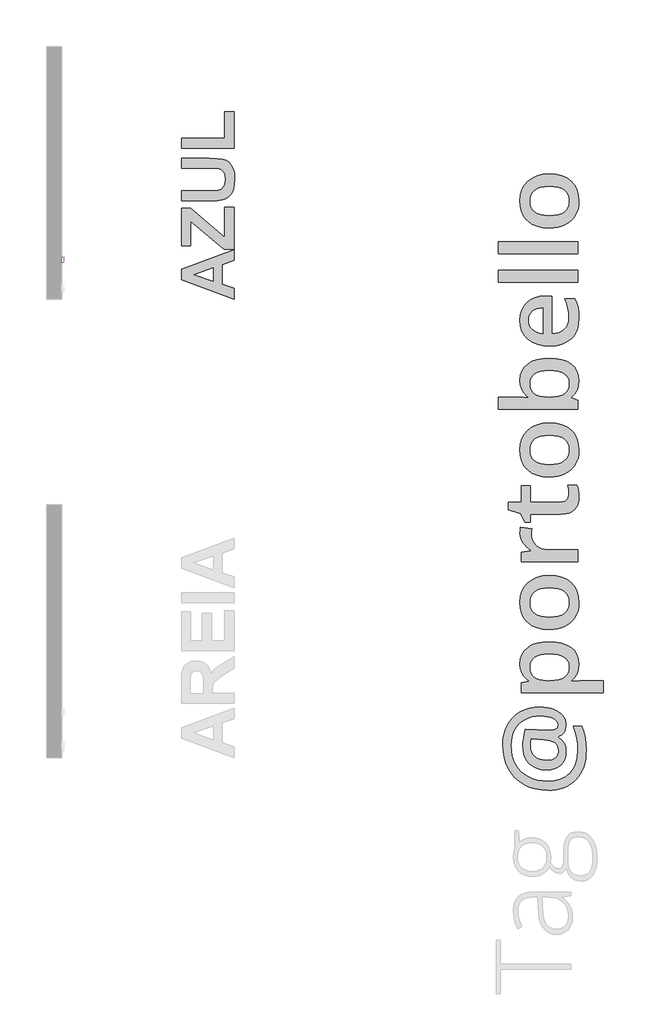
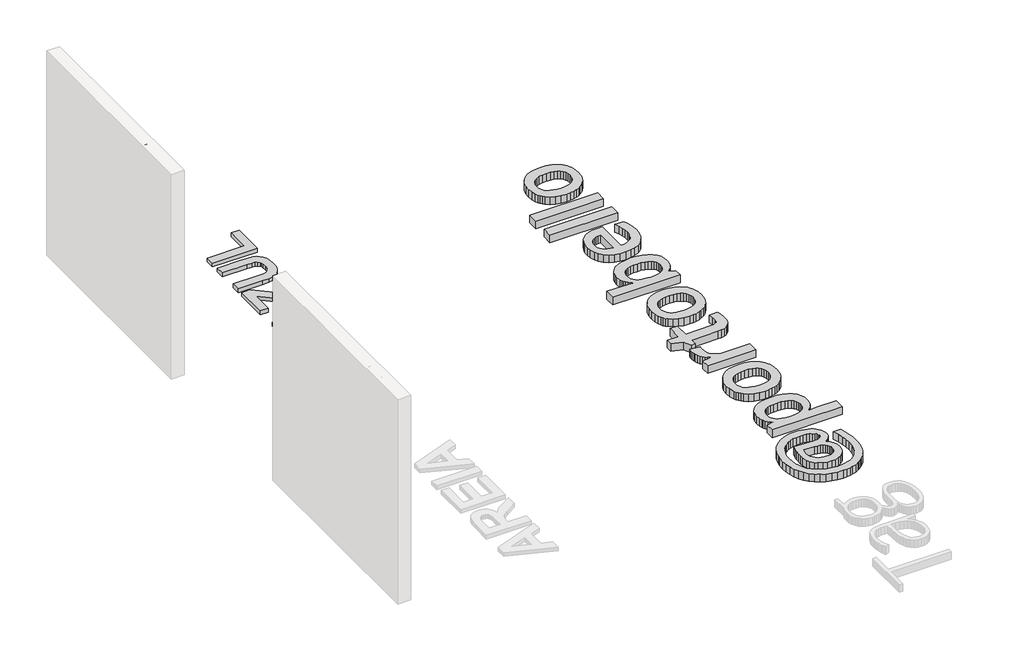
# One storey, part 2 of 6: 3 proxies.
"""IFC4 building model written with IfcOpenShell, lengths in millimetres."""

import ifcopenshell
import ifcopenshell.guid

model = None  # the IFC model being written
_history = None  # IfcOwnerHistory: only IFC2X3 demands one
_inside = {}  # id of a spatial element -> (the spatial element, [elements in it])
_under = {}  # id of a project, library or spatial element -> (it, [spatial elements below it])
_declared = {}  # id of a project -> (the project, [libraries it declares])
_typed = {}  # id of a type object -> (the type object, [elements of that type])
_made_of = {}  # id of a material, layer set ... -> (it, [elements and type objects made of it])


def new_model(schema):
    """Start an empty IFC model of exactly this schema.

    Asked for "IFC4X3", IfcOpenShell would pick the latest addendum, in which some entities
    have other attributes; the version numbers below select the first issue.
    IFC2X3 requires an IfcOwnerHistory on every rooted entity: one is made here for all.
    """
    global model, _history
    if schema == "IFC4X3":
        model = ifcopenshell.file(schema_version=(4, 3, 0, 0))
    else:
        model = ifcopenshell.file(schema=schema)
    _inside.clear()
    _under.clear()
    _declared.clear()
    _typed.clear()
    _made_of.clear()
    _history = None
    if model.schema == "IFC2X3":
        org = make("IfcOrganization", Name="unknown")
        user = make(
            "IfcPersonAndOrganization",
            ThePerson=make("IfcPerson", FamilyName="unknown"),
            TheOrganization=org,
        )
        app = make(
            "IfcApplication",
            ApplicationDeveloper=org,
            Version="unknown",
            ApplicationFullName="unknown",
            ApplicationIdentifier="unknown",
        )
        _history = make(
            "IfcOwnerHistory",
            OwningUser=user,
            OwningApplication=app,
            ChangeAction="ADDED",
            CreationDate=0,
        )
    return model


def make(cls, **values):
    """One entity of the class cls with the attributes given. An attribute that is None is left unset."""
    return model.create_entity(
        cls, **{name: value for name, value in values.items() if value is not None}
    )


def rooted(cls, **values):
    """An entity with a GlobalId (a new one), such as an element, a storey or a relation."""
    return make(cls, GlobalId=ifcopenshell.guid.new(), OwnerHistory=_history, **values)


def si_unit(unit_type, name, prefix=None):
    """IfcSIUnit, for example si_unit("LENGTHUNIT", "METRE", prefix="MILLI")."""
    return make("IfcSIUnit", UnitType=unit_type, Prefix=prefix, Name=name)


def assignment(units):
    """IfcUnitAssignment: the units of a project."""
    return None if units is None else make("IfcUnitAssignment", Units=units)


def point(xyz):
    """IfcCartesianPoint."""
    return None if xyz is None else make("IfcCartesianPoint", Coordinates=xyz)


def direction(xyz):
    """IfcDirection."""
    return None if xyz is None else make("IfcDirection", DirectionRatios=xyz)


def frame(location, z_axis=None, x_axis=None):
    """IfcAxis2Placement3D, a coordinate frame: its origin and axes. An axis left out is left unset."""
    return make(
        "IfcAxis2Placement3D",
        Location=point(location),
        Axis=direction(z_axis),
        RefDirection=direction(x_axis),
    )


def origin():
    """The frame at (0, 0, 0) with its axes left unset."""
    return frame((0.0, 0.0, 0.0))


def origin_with_axes():
    """The frame at (0, 0, 0) with the z axis (0, 0, 1) and the x axis (1, 0, 0) written out."""
    return frame((0.0, 0.0, 0.0), z_axis=(0.0, 0.0, 1.0), x_axis=(1.0, 0.0, 0.0))


def place(relative_to, where):
    """IfcLocalPlacement: puts the frame where relative to a parent placement (None: the world)."""
    return make(
        "IfcLocalPlacement", PlacementRelTo=relative_to, RelativePlacement=where
    )


def context(
    kind, dimensions, precision=None, world=None, true_north=None, identifier=None
):
    """IfcGeometricRepresentationContext, for example the 3D "Model" context."""
    return make(
        "IfcGeometricRepresentationContext",
        ContextIdentifier=identifier,
        ContextType=kind,
        CoordinateSpaceDimension=dimensions,
        Precision=precision,
        WorldCoordinateSystem=world,
        TrueNorth=true_north,
    )


def project(units=None, contexts=None):
    """IfcProject with its units and contexts."""
    return rooted(
        "IfcProject",
        Name="project",
        RepresentationContexts=contexts,
        UnitsInContext=assignment(units),
    )


def spatial(cls, under=None, at=None, **own):
    """A site, building, storey or space (cls), placed at a placement, below another one or the project."""
    s = rooted(cls, ObjectPlacement=at, **own)
    if under is not None:
        _under.setdefault(under.id(), (under, []))[1].append(s)
    return s


def polyline(points):
    """IfcPolyline through the points."""
    return make("IfcPolyline", Points=[point(p) for p in points])


def outline(outer, holes=None, kind="AREA"):
    """IfcArbitraryClosedProfileDef: a profile drawn as a closed curve; with holes, ...WithVoids."""
    if holes is None:
        return make("IfcArbitraryClosedProfileDef", ProfileType=kind, OuterCurve=outer)
    return make(
        "IfcArbitraryProfileDefWithVoids",
        ProfileType=kind,
        OuterCurve=outer,
        InnerCurves=holes,
    )


def extrude(swept, where, along, depth):
    """IfcExtrudedAreaSolid: the profile swept, set in the frame where, extruded along a direction by depth."""
    return make(
        "IfcExtrudedAreaSolid",
        SweptArea=swept,
        Position=where,
        ExtrudedDirection=direction(along),
        Depth=depth,
    )


def shape(context_of_items, identifier, shape_type, items):
    """IfcShapeRepresentation: the items that make up one representation, for example the "Body"."""
    return make(
        "IfcShapeRepresentation",
        ContextOfItems=context_of_items,
        RepresentationIdentifier=identifier,
        RepresentationType=shape_type,
        Items=items,
    )


def made_of(thing, what):
    """Note that an element or type object is made of a material, layer set ...; save() writes the relation."""
    if what is not None:
        _made_of.setdefault(what.id(), (what, []))[1].append(thing)
    return thing


def element(
    cls,
    number,
    at=None,
    inside=None,
    cuts=None,
    type_object=None,
    material=None,
    context=None,
    identifier="Body",
    shape_type=None,
    held_by="IfcProductDefinitionShape",
    body=None,
    shapes=None,
    **own,
):
    """One element of the class cls, such as IfcWall. Its Tag is "e" and its number.

    at: its placement. inside: the storey or other place that contains it. cuts: it is an
    opening in that element (IfcRelVoidsElement). A single representation is given by context,
    identifier, shape_type and body (its items); several are given by shapes. held_by: the class
    of the entity that holds the representations. save() writes the other relations.
    """
    e = rooted(cls, Tag="e%d" % number, ObjectPlacement=at, **own)
    if body is not None:
        shapes = [shape(context, identifier, shape_type, body)]
    if shapes is not None:
        e.Representation = make(held_by, Representations=shapes)
    if inside is not None:
        _inside.setdefault(inside.id(), (inside, []))[1].append(e)
    if cuts is not None:
        rooted(
            "IfcRelVoidsElement", RelatingBuildingElement=cuts, RelatedOpeningElement=e
        )
    if type_object is not None:
        _typed.setdefault(type_object.id(), (type_object, []))[1].append(e)
    return made_of(e, material)


def aggregate(whole, parts):
    """IfcRelAggregates: a whole, such as a stair, and the parts it consists of."""
    return rooted("IfcRelAggregates", RelatingObject=whole, RelatedObjects=parts)


def save(model, path):
    """Write the relations noted so far, then the file.

    IfcRelAggregates (storeys below a building ...), IfcRelContainedInSpatialStructure (elements
    in a storey), IfcRelDefinesByType, IfcRelAssociatesMaterial and IfcRelDeclares: one each for
    every whole, place, type object, material and project.
    """
    for whole, parts in _under.values():
        aggregate(whole, parts)
    for where, things in _inside.values():
        rooted(
            "IfcRelContainedInSpatialStructure",
            RelatedElements=things,
            RelatingStructure=where,
        )
    for kind, things in _typed.values():
        rooted("IfcRelDefinesByType", RelatedObjects=things, RelatingType=kind)
    for what, things in _made_of.values():
        rooted("IfcRelAssociatesMaterial", RelatedObjects=things, RelatingMaterial=what)
    for by, libraries in _declared.values():
        rooted("IfcRelDeclares", RelatingContext=by, RelatedDefinitions=libraries)
    model.write(path)


model = new_model("IFC4")

# Units and contexts
model_context = context("Model", 3, world=origin())
ifc_project = project(units=[si_unit("LENGTHUNIT", "METRE", prefix="MILLI")], contexts=[model_context])

# Site, building, storey
site = spatial("IfcSite", under=ifc_project)
building = spatial("IfcBuilding", under=site)
storey = spatial("IfcBuildingStorey", under=building, Name="PORTOBELLO - SHOWROOM", Elevation=0.0)

# Proxies
placement = place(None, origin())
element("IfcBuildingElementProxy", 1, Name="10mm Arial Narrow", ObjectType="10mm Arial Narrow", at=placement, inside=storey, context=model_context, shape_type="SweptSolid", body=[
    extrude(outline(polyline([(-4010.6286257, 2518.4745677), (-4010.6286257, 2619.1931714), (-3979.3317411, 2619.1931714), (-3963.0360395, 2617.3148507), (-3951.5630534, 2607.8344075), (-3947.273375, 2590.8152987), (-3949.0596834, 2578.7394731), (-3954.4186086, 2569.1130794), (-3964.1623974, 2562.811821), (-3979.1032966, 2560.7114015), (-4000.8816641, 2560.7114015), (-4000.8816641, 2518.4745677), (-4010.6286257, 2518.4745677)]), holes=[polyline([(-4000.8816641, 2572.0828568), (-3977.9103091, 2572.0828568), (-3962.0461137, 2576.613671), (-3957.0203366, 2590.2822617), (-3959.4951511, 2600.4480381), (-3965.47278, 2606.247988), (-3978.1387536, 2607.8217162), (-4000.8816641, 2607.8217162), (-4000.8816641, 2572.0828568)])]), frame((-21726.2609603, 0.0, 0.0), z_axis=(1.0, 0.0, 0.0), x_axis=(0.0, 1.0, 0.0)), (0.0, 0.0, 1.0), 20.0),
    extrude(outline(polyline([(-3939.1509069, 2555.0256739), (-3937.1964381, 2571.6164494), (-3931.3330315, 2583.5685342), (-3922.4744647, 2590.7930888), (-3911.5345156, 2593.2012737), (-3900.72148, 2590.7930888), (-3891.8375306, 2583.5685342), (-3885.8979758, 2571.8068198), (-3883.9181242, 2555.7871552), (-3885.8630746, 2538.6252687), (-3891.6979257, 2526.4828135), (-3900.5469739, 2519.2582589), (-3911.5345156, 2516.8500741), (-3922.3951438, 2519.2646046), (-3931.2695747, 2526.5081962), (-3937.1805739, 2538.4666267), (-3939.1509069, 2555.0256739)]), holes=[polyline([(-3929.4039453, 2555.0510566), (-3928.0999084, 2542.4993052), (-3924.1877978, 2533.6280471), (-3918.3466011, 2528.3547886), (-3911.2553058, 2526.5970357), (-3904.5352326, 2528.3706528), (-3898.8431593, 2533.6915039), (-3894.9596042, 2542.5786262), (-3893.6650859, 2555.0510566), (-3894.9691228, 2567.5647339), (-3898.8812333, 2576.4233006), (-3904.7224301, 2581.6965592), (-3911.8137254, 2583.454312), (-3918.5813912, 2581.6870407), (-3924.263946, 2576.3852265), (-3928.1189455, 2567.5171413), (-3929.4039453, 2555.0510566)])]), frame((-21726.2609603, 0.0, 0.0), z_axis=(1.0, 0.0, 0.0), x_axis=(0.0, 1.0, 0.0)), (0.0, 0.0, 1.0), 20.0),
    extrude(outline(polyline([(-3812.4404054, 2526.5970357), (-3810.8159118, 2516.8500741), (-3818.1768985, 2516.8500741), (-3826.4516628, 2518.9695306), (-3830.766724, 2524.7694804), (-3831.9343288, 2539.4153056), (-3831.9343288, 2581.8298184), (-3840.0567968, 2581.8298184), (-3840.0567968, 2585.0788056), (-3841.6812904, 2580.2053248), (-3849.2453388, 2581.8298184), (-3855.3244985, 2579.5073002), (-3859.1953621, 2573.0220171), (-3861.1752137, 2557.6147106), (-3861.1752137, 2518.4745677), (-3870.9221754, 2518.4745677), (-3870.9221754, 2591.5767801), (-3861.1752137, 2591.5767801), (-3861.1752137, 2581.8805838), (-3854.9310664, 2590.967595), (-3848.5346228, 2593.2012737), (-3840.0567968, 2591.5767801), (-3831.9343288, 2591.5767801), (-3831.9343288, 2607.8217162), (-3822.1873671, 2615.9441842), (-3822.1873671, 2591.5767801), (-3812.4404054, 2591.5767801), (-3812.4404054, 2581.8298184), (-3822.1873671, 2581.8298184), (-3822.1873671, 2537.1816269), (-3821.3243549, 2529.1860724), (-3816.7047012, 2526.5970357), (-3812.4404054, 2526.5970357)])), frame((-21726.2609603, 0.0, 0.0), z_axis=(1.0, 0.0, 0.0), x_axis=(0.0, 1.0, 0.0)), (0.0, 0.0, 1.0), 20.0),
    extrude(outline(polyline([(-3805.942431, 2555.0256739), (-3803.9879621, 2571.6164494), (-3798.1245555, 2583.5685342), (-3789.2659888, 2590.7930888), (-3778.3260397, 2593.2012737), (-3767.5130041, 2590.7930888), (-3758.6290547, 2583.5685342), (-3752.6894999, 2571.8068198), (-3750.7096483, 2555.7871552), (-3752.6545987, 2538.6252687), (-3758.4894497, 2526.4828135), (-3767.3384979, 2519.2582589), (-3778.3260397, 2516.8500741), (-3789.1866678, 2519.2646046), (-3798.0610987, 2526.5081962), (-3803.9720979, 2538.4666267), (-3805.942431, 2555.0256739)]), holes=[polyline([(-3796.1954694, 2555.0510566), (-3794.8914325, 2542.4993052), (-3790.9793219, 2533.6280471), (-3785.1381252, 2528.3547886), (-3778.0468298, 2526.5970357), (-3771.3267567, 2528.3706528), (-3765.6346833, 2533.6915039), (-3761.7511283, 2542.5786262), (-3760.45661, 2555.0510566), (-3761.7606468, 2567.5647339), (-3765.6727574, 2576.4233006), (-3771.5139542, 2581.6965592), (-3778.6052495, 2583.454312), (-3785.3729153, 2581.6870407), (-3791.05547, 2576.3852265), (-3794.9104695, 2567.5171413), (-3796.1954694, 2555.0510566)])]), frame((-21726.2609603, 0.0, 0.0), z_axis=(1.0, 0.0, 0.0), x_axis=(0.0, 1.0, 0.0)), (0.0, 0.0, 1.0), 20.0),
    extrude(outline(polyline([(-3727.9667378, 2518.4745677), (-3737.7136994, 2518.4745677), (-3737.7136994, 2619.1931714), (-3727.9667378, 2619.1931714), (-3727.9667378, 2583.7842873), (-3720.5676771, 2590.8660641), (-3711.3664437, 2593.2012737), (-3698.4847171, 2589.0004347), (-3689.2073356, 2576.2710043), (-3685.729904, 2555.5840935), (-3687.662163, 2539.1297501), (-3693.45894, 2526.927011), (-3701.8320623, 2519.3693083), (-3711.4933573, 2516.8500741), (-3720.8341955, 2519.4644935), (-3727.9667378, 2527.2316035), (-3727.9667378, 2518.4745677)]), holes=[polyline([(-3727.9667378, 2555.5840935), (-3725.8853553, 2538.3365403), (-3719.996566, 2529.6048872), (-3711.5441227, 2526.5970357), (-3705.6013951, 2528.3865169), (-3700.3630378, 2533.7549607), (-3695.4768656, 2555.1779701), (-3700.1853588, 2576.613671), (-3705.4300618, 2581.7441518), (-3711.7471844, 2583.454312), (-3717.7248132, 2581.6648308), (-3723.0171088, 2576.2963871), (-3727.9667378, 2555.5840935)])]), frame((-21726.2609603, 0.0, 0.0), z_axis=(1.0, 0.0, 0.0), x_axis=(0.0, 1.0, 0.0)), (0.0, 0.0, 1.0), 20.0),
    extrude(outline(polyline([(-3633.7461085, 2541.2174782), (-3623.9991468, 2539.5929846), (-3627.6986772, 2529.706418), (-3633.5176641, 2522.5865671), (-3641.2213173, 2518.2841973), (-3650.5748469, 2516.8500741), (-3662.1684009, 2519.2646046), (-3671.3125232, 2526.5081962), (-3677.2520779, 2538.3143304), (-3679.2319295, 2554.4164888), (-3677.2425594, 2571.0834124), (-3671.2744491, 2583.2639417), (-3662.2604133, 2590.7169407), (-3651.1332666, 2593.2012737), (-3640.4503174, 2590.8026073), (-3631.7028001, 2583.6066083), (-3625.867949, 2571.8671037), (-3623.9229987, 2555.8379207), (-3623.9991468, 2552.5889335), (-3669.4849679, 2552.5889335), (-3663.4819563, 2533.1457756), (-3657.5519201, 2528.2342207), (-3650.4479334, 2526.5970357), (-3640.2694656, 2530.2521463), (-3633.7461085, 2541.2174782)]), holes=[polyline([(-3668.8250173, 2562.3358951), (-3633.7461085, 2562.3358951), (-3638.0104042, 2576.6009796), (-3643.8357367, 2581.7409789), (-3651.0571185, 2583.454312), (-3663.2662033, 2577.7432017), (-3668.8250173, 2562.3358951)])]), frame((-21726.2609603, 0.0, 0.0), z_axis=(1.0, 0.0, 0.0), x_axis=(0.0, 1.0, 0.0)), (0.0, 0.0, 1.0), 20.0),
    extrude(outline(polyline([(-21706.2609603, -3601.2562363), (-21706.2609603, -3611.0031979), (-21726.2609603, -3611.0031979), (-21726.2609603, -3601.2562363), (-21706.2609603, -3601.2562363)])), frame((0.0, 0.0, 2518.4745677), z_axis=(0.0, 0.0, 1.0), x_axis=(1.0, 0.0, 0.0)), (0.0, 0.0, 1.0), 100.7186038),
    extrude(outline(polyline([(-21706.2609603, -3575.2643385), (-21706.2609603, -3585.0113002), (-21726.2609603, -3585.0113002), (-21726.2609603, -3575.2643385), (-21706.2609603, -3575.2643385)])), frame((0.0, 0.0, 2518.4745677), z_axis=(0.0, 0.0, 1.0), x_axis=(1.0, 0.0, 0.0)), (0.0, 0.0, 1.0), 100.7186038),
    extrude(outline(polyline([(-3563.8928833, 2555.0256739), (-3561.9384144, 2571.6164494), (-3556.0750078, 2583.5685342), (-3547.2164411, 2590.7930888), (-3536.2764919, 2593.2012737), (-3525.4634563, 2590.7930888), (-3516.5795069, 2583.5685342), (-3510.6399522, 2571.8068198), (-3508.6601006, 2555.7871552), (-3510.6050509, 2538.6252687), (-3516.439902, 2526.4828135), (-3525.2889502, 2519.2582589), (-3536.2764919, 2516.8500741), (-3547.1371201, 2519.2646046), (-3556.011551, 2526.5081962), (-3561.9225502, 2538.4666267), (-3563.8928833, 2555.0256739)]), holes=[polyline([(-3554.1459216, 2555.0510566), (-3552.8418848, 2542.4993052), (-3548.9297742, 2533.6280471), (-3543.0885774, 2528.3547886), (-3535.9972821, 2526.5970357), (-3529.2772089, 2528.3706528), (-3523.5851356, 2533.6915039), (-3519.7015806, 2542.5786262), (-3518.4070622, 2555.0510566), (-3519.7110991, 2567.5647339), (-3523.6232097, 2576.4233006), (-3529.4644064, 2581.6965592), (-3536.5557018, 2583.454312), (-3543.3233675, 2581.6870407), (-3549.0059223, 2576.3852265), (-3552.8609218, 2567.5171413), (-3554.1459216, 2555.0510566)])]), frame((-21726.2609603, 0.0, 0.0), z_axis=(1.0, 0.0, 0.0), x_axis=(0.0, 1.0, 0.0)), (0.0, 0.0, 1.0), 20.0),
])
element("IfcBuildingElementProxy", 2, Name="550mm Arial", ObjectType="550mm Arial", at=placement, inside=storey, context=model_context, shape_type="SweptSolid", body=[
    extrude(outline(polyline([(-19883.4014648, -3872.058402), (-19883.4014648, -3984.3704393), (-20008.0998359, -4028.3488827), (-20008.0998359, -4240.3082791), (-19883.4014648, -4283.7300334), (-19883.4014648, -4397.5729659), (-20444.5441347, -4192.7113562), (-20444.5441347, -4078.8684237), (-19883.4014648, -3872.058402)]), holes=[polyline([(-20106.0771275, -4062.5852658), (-20310.9387371, -4134.8156839), (-20106.0771275, -4206.071896), (-20106.0771275, -4062.5852658)])]), origin_with_axes(), (0.0, 0.0, 1.0), 50.0),
    extrude(outline(polyline([(-19883.4014648, -3863.1513755), (-19990.2857829, -3863.1513755), (-20346.5668432, -3562.4000585), (-20346.5668432, -3827.5232694), (-20444.5441347, -3827.5232694), (-20444.5441347, -3426.7070766), (-20346.5668432, -3426.7070766), (-19981.3787564, -3734.9736971), (-19981.3787564, -3417.8000501), (-19883.4014648, -3417.8000501), (-19883.4014648, -3863.1513755)])), origin_with_axes(), (0.0, 0.0, 1.0), 50.0),
    extrude(outline(polyline([(-20444.5441347, -3346.543838), (-20444.5441347, -3239.6595199), (-20141.8444058, -3239.6595199), (-20082.4178383, -3238.5113485), (-20048.3206274, -3235.0668344), (-20017.4417758, -3221.6715015), (-19993.2779871, -3197.351144), (-19984.1752495, -3181.094081), (-19977.6732942, -3162.1057618), (-19972.4717298, -3115.9353548), (-19977.377553, -3069.8171375), (-19983.509832, -3051.6247098), (-19992.0950226, -3036.6767362), (-20013.9624686, -3015.3311863), (-20040.3182208, -3004.5975235), (-20078.3644454, -3000.526734), (-20135.3033082, -2999.1698042), (-20444.5441347, -2999.1698042), (-20444.5441347, -2892.2854861), (-20150.1947431, -2892.2854861), (-20064.0123031, -2894.616622), (-20007.5431467, -2901.6100295), (-19969.1489914, -2914.86619), (-19937.1915545, -2935.9855849), (-19911.3924914, -2965.2639553), (-19891.4734575, -3002.9970422), (-19878.7391931, -3051.3768092), (-19874.4944383, -3112.5952199), (-19879.1219169, -3184.3037419), (-19884.9062651, -3212.7731733), (-19893.0043527, -3236.319385), (-19914.297713, -3274.0698684), (-19941.1579648, -3302.9829115), (-19971.5323169, -3323.3020657), (-20003.367978, -3335.2708826), (-20063.003304, -3343.7255992), (-20145.6020576, -3346.543838), (-20444.5441347, -3346.543838)])), origin_with_axes(), (0.0, 0.0, 1.0), 50.0),
    extrude(outline(polyline([(-19883.4014648, -2785.401168), (-20444.5441347, -2785.401168), (-20444.5441347, -2678.5168499), (-19981.3787564, -2678.5168499), (-19981.3787564, -2393.4920017), (-19883.4014648, -2393.4920017), (-19883.4014648, -2785.401168)])), origin_with_axes(), (0.0, 0.0, 1.0), 50.0),
])
element("IfcBuildingElementProxy", 3, Name="80mm OpenSans Bold", ObjectType="80mm OpenSans Bold", at=placement, inside=storey, context=model_context, shape_type="SweptSolid", body=[
    extrude(outline(polyline([(-16609.0154687, -8756.8805327), (-16570.9098541, -8758.4278926), (-16534.4717825, -8763.0699722), (-16499.7012542, -8770.8067716), (-16466.598269, -8781.6382907), (-16436.1167818, -8795.2790942), (-16409.2107476, -8811.4437468), (-16385.8801662, -8830.1322485), (-16366.1250378, -8851.3445994), (-16350.403561, -8874.6902037), (-16339.1739348, -8899.7784656), (-16332.4361591, -8926.6093853), (-16330.1902338, -8955.1829627), (-16335.8989401, -8995.8049151), (-16343.034823, -9013.952592), (-16353.0250591, -9030.6580694), (-16365.4490068, -9045.3354538), (-16379.8860246, -9057.3988517), (-16396.3361125, -9066.8482629), (-16414.7992706, -9073.6836876), (-16414.7992706, -9080.4139519), (-16377.782817, -9110.5799579), (-16351.342493, -9147.2358616), (-16335.4782986, -9189.6004717), (-16330.1902338, -9236.8925967), (-16333.7431523, -9279.5576649), (-16344.401908, -9317.4154016), (-16362.1665006, -9350.4658066), (-16387.0369304, -9378.7088799), (-16417.9766164, -9401.3183615), (-16453.9489776, -9417.4679913), (-16494.9540142, -9427.1577691), (-16540.9917261, -9430.387695), (-16594.135275, -9426.1061653), (-16642.0358279, -9413.2615761), (-16684.6933847, -9391.8539274), (-16722.1079455, -9361.8832192), (-16752.5518754, -9324.7015136), (-16774.2975396, -9281.6608725), (-16787.3449381, -9232.761296), (-16791.6940709, -9178.0027841), (-16789.8612757, -9133.6851956), (-16784.3628902, -9084.8607336), (-16775.6195558, -9036.6371882), (-16764.051914, -8994.122349), (-16512.868836, -9006.3810447), (-16500.1294072, -9006.3810447), (-16462.2716705, -9002.7755459), (-16435.2304301, -8991.9590498), (-16425.7659959, -8983.8466776), (-16419.0056858, -8973.9315561), (-16413.5974377, -8948.693065), (-16417.0602188, -8927.938913), (-16427.448562, -8909.4231747), (-16444.7624673, -8893.1458503), (-16469.0019348, -8879.1069396), (-16498.6045817, -8867.8021988), (-16532.0080251, -8859.7273839), (-16569.2122651, -8854.882495), (-16610.2173016, -8853.2675321), (-16655.3085701, -8855.6862208), (-16697.5605083, -8862.942287), (-16736.9731163, -8875.0357306), (-16773.546394, -8891.9665517), (-16806.6869365, -8913.3591775), (-16835.8013387, -8938.8380352), (-16860.8896007, -8968.4031247), (-16881.9517224, -9002.0544462), (-16898.6196426, -9039.0558769), (-16910.5252998, -9078.6712942), (-16917.6686942, -9120.900698), (-16920.0498256, -9165.7440884), (-16917.0602663, -9222.7184798), (-16908.0915882, -9275.8620287), (-16893.1437914, -9325.1747353), (-16872.2168758, -9370.6565994), (-16845.7389946, -9411.6466131), (-16814.1383005, -9447.4837682), (-16777.4147937, -9478.1680646), (-16735.5684741, -9503.6995025), (-16689.3805331, -9523.785135), (-16639.6321621, -9538.1320153), (-16586.3233611, -9546.7401435), (-16529.4541301, -9549.6095196), (-16455.2785053, -9544.2538517), (-16390.1917418, -9528.186848), (-16361.0566831, -9516.1365952), (-16334.1938397, -9501.4085085), (-16309.6032116, -9484.0025878), (-16287.2847989, -9463.9188332), (-16267.426388, -9441.3337638), (-16250.2157652, -9416.4238989), (-16235.6529305, -9389.1892385), (-16223.7378839, -9359.6297825), (-16207.8511551, -9293.536484), (-16202.5555789, -9218.1440033), (-16205.6502986, -9156.4298834), (-16214.9344578, -9093.3937473), (-16230.4080565, -9029.035595), (-16252.0710947, -8963.3554265), (-16161.9336265, -8963.3554265), (-16141.3221921, -9022.5757431), (-16126.599739, -9084.3800005), (-16117.7662671, -9148.7681986), (-16114.8217765, -9215.7403375), (-16116.5174876, -9265.3553801), (-16121.604621, -9312.164894), (-16130.0831766, -9356.1688793), (-16141.9531544, -9397.3673358), (-16157.2145545, -9435.7602637), (-16175.8673768, -9471.3476629), (-16197.9116214, -9504.1295333), (-16223.3472882, -9534.1058751), (-16251.8175831, -9560.8936039), (-16282.9657119, -9584.1096356), (-16316.7916747, -9603.75397), (-16353.2954715, -9619.8266073), (-16392.4771022, -9632.3275474), (-16434.3365668, -9641.2567904), (-16478.8738654, -9646.6143362), (-16526.088998, -9648.4001847), (-16595.156833, -9644.5392965), (-16660.3036881, -9632.9566319), (-16721.5295634, -9613.6521908), (-16778.8344588, -9586.6259732), (-16830.9339154, -9552.7493081), (-16876.5434743, -9512.8935242), (-16915.6631355, -9467.0586217), (-16948.292899, -9415.2446004), (-16974.0046118, -9358.6232474), (-16992.3701209, -9298.36635), (-17003.3894264, -9234.4739079), (-17007.0625282, -9166.9459213), (-17003.9978543, -9108.7246283), (-16994.8038326, -9053.7633071), (-16979.480463, -9002.0619577), (-16958.0277455, -8953.62058), (-16930.9113905, -8909.4381976), (-16898.5971082, -8870.5138343), (-16861.0848985, -8836.8474899), (-16818.3747615, -8808.4391645), (-16771.3079802, -8785.8822631), (-16720.7258376, -8769.7701907), (-16666.6283338, -8760.1029472), (-16609.0154687, -8756.8805327)]), holes=[polyline([(-16539.0687934, -9325.1071322), (-16509.6614444, -9323.5184593), (-16484.1750753, -9318.7524407), (-16462.609686, -9310.8090763), (-16444.9652766, -9299.6883662), (-16431.2418471, -9285.3903103), (-16421.4393974, -9267.9149086), (-16415.5579276, -9247.2621612), (-16413.5974377, -9223.4320681), (-16416.0611952, -9198.1485082), (-16423.4524676, -9175.8995765), (-16435.7712549, -9156.6852729), (-16453.0175571, -9140.5055973), (-16475.1913743, -9127.3605499), (-16502.2927064, -9117.2501305), (-16534.3215534, -9110.1743393), (-16571.2779154, -9106.1331761), (-16699.8740367, -9099.4029118), (-16706.7244842, -9135.6982657), (-16709.0079668, -9174.3972854), (-16706.1461022, -9208.0110496), (-16697.5605083, -9237.7038339), (-16683.2511852, -9263.4756383), (-16663.2181329, -9285.3264629), (-16638.2876115, -9302.7305057), (-16609.2858811, -9315.1619649), (-16576.2129418, -9322.6208404), (-16539.0687934, -9325.1071322)])]), origin_with_axes(), (0.0, 0.0, 1.0), 100.0),
    extrude(outline(polyline([(-16191.7390827, -8298.2610946), (-16196.93701, -8351.8177736), (-16212.530792, -8399.034784), (-16238.5204287, -8439.9121259), (-16274.90592, -8474.4497991), (-16274.90592, -8482.1415297), (-16180.9225865, -8474.4497991), (-15930.2202416, -8474.4497991), (-15930.2202416, -8603.2862869), (-16807.0775322, -8603.2862869), (-16807.0775322, -8498.9671904), (-16729.9198594, -8480.9396968), (-16729.9198594, -8474.4497991), (-16751.6091877, -8458.6194062), (-16770.4066055, -8440.9336838), (-16786.3121129, -8421.3926319), (-16799.3257099, -8399.9962504), (-16809.4473964, -8376.7445393), (-16816.6771725, -8351.6374987), (-16822.4609934, -8295.8574288), (-16817.3006233, -8243.0518953), (-16801.8195132, -8196.4057556), (-16776.0176629, -8155.9190094), (-16739.8950725, -8121.591657), (-16694.4582771, -8094.2499583), (-16640.7138117, -8074.7201735), (-16578.6616763, -8063.0023026), (-16508.3018709, -8059.0963457), (-16437.7693021, -8063.0699057), (-16375.4392428, -8074.9905859), (-16321.3116932, -8094.8583862), (-16275.3866531, -8122.6733066), (-16238.7908411, -8157.4889037), (-16212.6509753, -8198.358734), (-16196.9670558, -8245.2827977), (-16191.7390827, -8298.2610946)]), holes=[polyline([(-16714.7767647, -8329.7491168), (-16711.9825032, -8364.8351263), (-16703.5997187, -8394.8584147), (-16689.6284111, -8419.8189819), (-16670.0685805, -8439.716828), (-16644.3794021, -8454.9125029), (-16612.020051, -8465.7665563), (-16572.9905273, -8472.2789884), (-16527.2908309, -8474.4497991), (-16508.3018709, -8474.4497991), (-16456.9535599, -8472.3015228), (-16413.2368878, -8465.8566938), (-16377.1518547, -8455.1153122), (-16348.6984606, -8440.0773779), (-16327.1405828, -8420.1569974), (-16311.7420987, -8394.7682772), (-16302.5030082, -8363.9112173), (-16299.4233113, -8327.5858176), (-16302.8335122, -8296.6611545), (-16313.0641149, -8269.5072423), (-16330.1151192, -8246.1240807), (-16353.9865254, -8226.5116699), (-16384.1525314, -8211.0005139), (-16420.0873354, -8199.9211168), (-16461.7909374, -8193.2734785), (-16509.2633373, -8191.0575991), (-16556.8934778, -8193.2584556), (-16598.3492017, -8199.8610252), (-16633.630509, -8210.8653077), (-16662.7373998, -8226.2713033), (-16685.5046219, -8245.9438058), (-16701.7669235, -8269.7476088), (-16711.5243044, -8297.6827125), (-16714.7767647, -8329.7491168)])]), origin_with_axes(), (0.0, 0.0, 1.0), 100.0),
    extrude(outline(polyline([(-16508.3018709, -7350.9763956), (-16437.7693021, -7355.7837272), (-16375.4392428, -7370.2057222), (-16321.3116932, -7394.2423803), (-16275.3866531, -7427.8937018), (-16255.7817538, -7448.065716), (-16238.7908411, -7470.1231056), (-16224.4139149, -7494.0658706), (-16212.6509753, -7519.894011), (-16196.9670558, -7577.2064178), (-16191.7390827, -7642.0603262), (-16194.1502599, -7683.711348), (-16201.3837918, -7722.8535435), (-16213.4396781, -7759.4869129), (-16230.3179191, -7793.6114561), (-16251.6955219, -7824.5886993), (-16277.2494942, -7851.7801689), (-16306.9798357, -7875.1858648), (-16340.8865467, -7894.805787), (-16378.3461762, -7910.316943), (-16418.7352734, -7921.3963401), (-16462.0538383, -7928.0439784), (-16508.3018709, -7930.2598578), (-16578.2710806, -7925.4900835), (-16640.1128953, -7911.1807604), (-16693.8273148, -7887.3318886), (-16739.4143394, -7853.9434681), (-16758.8783989, -7833.8860036), (-16775.7472505, -7811.8718048), (-16790.0208942, -7787.9008719), (-16801.6993299, -7761.9732047), (-16817.2705775, -7704.2476678), (-16822.4609934, -7638.6951941), (-16817.1428828, -7575.8017756), (-16801.1885509, -7519.8038735), (-16774.5979978, -7470.7014877), (-16737.3712234, -7428.4946183), (-16691.1457252, -7394.5803958), (-16637.5590003, -7370.3559513), (-16576.6110489, -7355.8212845), (-16508.3018709, -7350.9763956)]), holes=[polyline([(-16508.3018709, -7797.5775047), (-16459.3459585, -7795.1137472), (-16416.9175011, -7787.7224748), (-16381.0164987, -7775.4036875), (-16351.6429512, -7758.1573852), (-16328.7968588, -7735.9835681), (-16312.4782213, -7708.882236), (-16302.6870388, -7676.8533889), (-16299.4233113, -7639.897027), (-16302.6870388, -7603.2786805), (-16312.4782213, -7571.5427803), (-16328.7968588, -7544.6893262), (-16351.6429512, -7522.7183183), (-16381.0164987, -7505.6297567), (-16416.9175011, -7493.4236412), (-16459.3459585, -7486.0999719), (-16508.3018709, -7483.6587488), (-16556.6944242, -7486.1149948), (-16598.634637, -7493.4837328), (-16634.1225093, -7505.7649629), (-16663.1580413, -7522.9586849), (-16685.7412328, -7545.064899), (-16701.8720839, -7572.0836051), (-16711.5505945, -7604.0148032), (-16714.7767647, -7640.8584933), (-16711.4416784, -7679.2495433), (-16701.4364194, -7711.9769557), (-16684.7609878, -7739.0407305), (-16661.4153836, -7760.4408678), (-16631.8352711, -7776.6881464), (-16596.4563148, -7788.2933454), (-16555.2785148, -7795.2564648), (-16508.3018709, -7797.5775047)])]), origin_with_axes(), (0.0, 0.0, 1.0), 100.0),
    extrude(outline(polyline([(-16822.4609934, -6900.2890547), (-16821.0788855, -6865.6161753), (-16816.932562, -6837.5533768), (-16696.7492711, -6849.8120725), (-16701.7969693, -6877.2138628), (-16703.4795354, -6905.5771195), (-16700.3397469, -6941.6321068), (-16690.9203815, -6974.0815953), (-16675.2214391, -7002.9255851), (-16653.2429198, -7028.1640762), (-16626.2467481, -7048.6703502), (-16595.4948485, -7063.3176888), (-16560.9872211, -7072.106092), (-16522.7238659, -7075.0355597), (-16207.1225439, -7075.0355597), (-16207.1225439, -7203.8720475), (-16807.0775322, -7203.8720475), (-16807.0775322, -7102.9180832), (-16704.9217349, -7085.8520559), (-16704.9217349, -7079.3621581), (-16730.5658446, -7063.5655668), (-16753.4156928, -7045.5005159), (-16773.4712794, -7025.1670054), (-16790.7326046, -7002.5650352), (-16804.6137747, -6978.3706365), (-16814.5288962, -6953.2598402), (-16820.4779691, -6927.2326462), (-16822.4609934, -6900.2890547)])), origin_with_axes(), (0.0, 0.0, 1.0), 100.0),
    extrude(outline(polyline([(-16299.4233113, -6481.3301025), (-16303.0889017, -6433.4370611), (-16314.0856728, -6385.4238364), (-16214.3335414, -6385.4238364), (-16205.5000695, -6410.1815943), (-16198.2289804, -6441.1888834), (-16193.3615571, -6475.9218545), (-16191.7390827, -6511.8566584), (-16194.7737108, -6555.235315), (-16203.8775951, -6592.8301507), (-16219.0507355, -6624.6411655), (-16240.2931322, -6650.6683594), (-16267.6047851, -6670.9117325), (-16300.9856941, -6685.3712847), (-16340.4358594, -6694.047016), (-16385.9552808, -6696.9389265), (-16714.7767647, -6696.9389265), (-16714.7767647, -6780.5864969), (-16768.8592456, -6780.5864969), (-16813.5674299, -6690.9297619), (-16945.5286833, -6646.9426774), (-16945.5286833, -6567.3813388), (-16807.0775322, -6567.3813388), (-16807.0775322, -6391.6733675), (-16714.7767647, -6391.6733675), (-16714.7767647, -6567.3813388), (-16390.2818793, -6567.3813388), (-16368.5963067, -6565.9015821), (-16349.9303393, -6561.4623118), (-16334.2839772, -6554.0635279), (-16321.6572202, -6543.7052305), (-16311.929885, -6530.9282444), (-16304.9817885, -6516.2733944), (-16299.4233113, -6481.3301025)])), origin_with_axes(), (0.0, 0.0, 1.0), 100.0),
    extrude(outline(polyline([(-16508.3018709, -5720.3295045), (-16437.7693021, -5725.1368361), (-16375.4392428, -5739.558831), (-16321.3116932, -5763.5954892), (-16275.3866531, -5797.2468107), (-16255.7817538, -5817.4188249), (-16238.7908411, -5839.4762145), (-16224.4139149, -5863.4189795), (-16212.6509753, -5889.2471199), (-16196.9670558, -5946.5595267), (-16191.7390827, -6011.4134351), (-16194.1502599, -6053.0644568), (-16201.3837918, -6092.2066524), (-16213.4396781, -6128.8400218), (-16230.3179191, -6162.9645649), (-16251.6955219, -6193.9418081), (-16277.2494942, -6221.1332777), (-16306.9798357, -6244.5389736), (-16340.8865467, -6264.1588959), (-16378.3461762, -6279.6700518), (-16418.7352734, -6290.749449), (-16462.0538383, -6297.3970873), (-16508.3018709, -6299.6129667), (-16578.2710806, -6294.8431923), (-16640.1128953, -6280.5338693), (-16693.8273148, -6256.6849975), (-16739.4143394, -6223.296577), (-16758.8783989, -6203.2391124), (-16775.7472505, -6181.2249137), (-16790.0208942, -6157.2539807), (-16801.6993299, -6131.3263136), (-16817.2705775, -6073.6007767), (-16822.4609934, -6008.0483029), (-16817.1428828, -5945.1548845), (-16801.1885509, -5889.1569824), (-16774.5979978, -5840.0545966), (-16737.3712234, -5797.8477271), (-16691.1457252, -5763.9335047), (-16637.5590003, -5739.7090601), (-16576.6110489, -5725.1743934), (-16508.3018709, -5720.3295045)]), holes=[polyline([(-16508.3018709, -6166.9306135), (-16459.3459585, -6164.4668561), (-16416.9175011, -6157.0755837), (-16381.0164987, -6144.7567963), (-16351.6429512, -6127.5104941), (-16328.7968588, -6105.3366769), (-16312.4782213, -6078.2353448), (-16302.6870388, -6046.2064978), (-16299.4233113, -6009.2501358), (-16302.6870388, -5972.6317894), (-16312.4782213, -5940.8958891), (-16328.7968588, -5914.0424351), (-16351.6429512, -5892.0714272), (-16381.0164987, -5874.9828655), (-16416.9175011, -5862.77675), (-16459.3459585, -5855.4530807), (-16508.3018709, -5853.0118576), (-16556.6944242, -5855.4681037), (-16598.634637, -5862.8368417), (-16634.1225093, -5875.1180717), (-16663.1580413, -5892.3117938), (-16685.7412328, -5914.4180078), (-16701.8720839, -5941.4367139), (-16711.5505945, -5973.367912), (-16714.7767647, -6010.2116022), (-16711.4416784, -6048.6026522), (-16701.4364194, -6081.3300646), (-16684.7609878, -6108.3938394), (-16661.4153836, -6129.7939766), (-16631.8352711, -6146.0412553), (-16596.4563148, -6157.6464543), (-16555.2785148, -6164.6095737), (-16508.3018709, -6166.9306135)])]), origin_with_axes(), (0.0, 0.0, 1.0), 100.0),
    extrude(outline(polyline([(-16822.4609934, -5265.3155651), (-16817.3006233, -5212.5100316), (-16801.8195132, -5165.8638918), (-16776.0176629, -5125.3771457), (-16739.8950725, -5091.0497932), (-16694.4582771, -5063.7080946), (-16640.7138117, -5044.1783098), (-16578.6616763, -5032.4604389), (-16508.3018709, -5028.554482), (-16437.5740042, -5032.5055077), (-16375.1387846, -5044.3585847), (-16320.9962121, -5064.1137132), (-16275.1462866, -5091.770893), (-16238.6556349, -5126.4587953), (-16212.5908836, -5167.3060913), (-16196.9520329, -5214.312781), (-16191.7390827, -5267.4788643), (-16196.93701, -5321.1407037), (-16212.530792, -5368.4328287), (-16238.5204287, -5409.3552392), (-16274.90592, -5443.9079354), (-16274.90592, -5452.5611323), (-16207.1225439, -5476.1170573), (-16207.1225439, -5572.7444232), (-17053.212912, -5572.7444232), (-17053.212912, -5443.9079354), (-16853.2279159, -5443.9079354), (-16787.2472892, -5446.0712346), (-16731.6024255, -5449.1960002), (-16731.6024255, -5443.9079354), (-16752.8974023, -5427.8672218), (-16771.3530489, -5410.0312702), (-16786.9693653, -5390.4000808), (-16799.7463514, -5368.9736535), (-16809.6840073, -5345.7519882), (-16816.7823329, -5320.7350851), (-16822.4609934, -5265.3155651)]), holes=[polyline([(-16714.7767647, -5299.2072531), (-16711.929923, -5334.7514614), (-16703.3893979, -5364.9475132), (-16689.1551894, -5389.7954086), (-16669.2272975, -5409.2951476), (-16642.6292329, -5424.0776924), (-16608.3845065, -5434.7740053), (-16566.4931181, -5441.3840863), (-16516.9550679, -5443.9079354), (-16508.3018709, -5443.9079354), (-16456.9535599, -5441.759659), (-16413.2368878, -5435.3148301), (-16377.1518547, -5424.5734484), (-16348.6984606, -5409.5355142), (-16327.1405828, -5389.6151337), (-16311.7420987, -5364.2264135), (-16302.5030082, -5333.3693536), (-16299.4233113, -5297.0439539), (-16302.7959549, -5265.5333973), (-16312.9138857, -5238.0640039), (-16329.7771037, -5214.6357736), (-16353.385609, -5195.2487065), (-16383.3638286, -5180.0530316), (-16419.3361898, -5169.1989782), (-16461.3026927, -5162.6865461), (-16509.2633373, -5160.5157354), (-16557.4305468, -5162.6827904), (-16599.1754618, -5169.1839552), (-16634.4980821, -5180.0192301), (-16663.3984079, -5195.1886148), (-16685.876439, -5214.6921095), (-16701.9321755, -5238.5297141), (-16711.5656174, -5266.7014286), (-16714.7767647, -5299.2072531)])]), origin_with_axes(), (0.0, 0.0, 1.0), 100.0),
    extrude(outline(polyline([(-16191.7390827, -4599.7405), (-16196.9144756, -4666.5548983), (-16212.4406545, -4725.662543), (-16224.0852887, -4752.3263328), (-16238.3176194, -4777.0634343), (-16255.1376465, -4799.8738473), (-16274.5453701, -4820.757572), (-16319.8619822, -4855.6182378), (-16373.0055312, -4880.5187134), (-16433.976017, -4895.4589987), (-16502.7734396, -4900.4390939), (-16573.3060084, -4895.8195486), (-16635.8764342, -4881.9609129), (-16690.4847171, -4858.8631867), (-16737.1308568, -4826.5263699), (-16774.4627916, -4786.1072269), (-16801.1284593, -4738.7625217), (-16817.1278599, -4684.4922544), (-16822.4609934, -4623.296425), (-16817.9691429, -4566.5774231), (-16804.4935914, -4516.1229753), (-16782.0343389, -4471.9330815), (-16750.5913854, -4434.0077418), (-16711.2764264, -4403.5638119), (-16665.2011572, -4381.8181477), (-16612.365578, -4368.7707492), (-16552.7696886, -4364.4216164), (-16484.0248462, -4364.4216164), (-16484.0248462, -4767.7567407), (-16442.1259464, -4763.7906921), (-16405.3648823, -4754.5365787), (-16373.7416539, -4739.9944005), (-16347.2562611, -4720.1641575), (-16326.3293456, -4695.4063996), (-16311.3815488, -4666.0816766), (-16302.4128707, -4632.1899885), (-16299.4233113, -4593.7313354), (-16301.9471604, -4541.9623829), (-16309.5187078, -4493.8590207), (-16322.9792364, -4445.8758418), (-16343.1700292, -4394.4674391), (-16235.245434, -4394.4674391), (-16214.9344578, -4441.8497015), (-16201.5941125, -4489.7727888), (-16194.2028401, -4541.3614664), (-16191.7390827, -4599.7405)]), holes=[polyline([(-16730.160226, -4623.5367916), (-16727.70398, -4652.5535449), (-16720.3352419, -4678.550693), (-16708.0540119, -4701.5282359), (-16690.8602898, -4721.4861737), (-16668.9643965, -4738.0789793), (-16642.5766527, -4750.9611258), (-16611.6970584, -4760.1326132), (-16576.3256136, -4765.5934414), (-16576.3256136, -4491.094805), (-16611.8923563, -4493.8064405), (-16642.8771109, -4500.7395141), (-16669.2798777, -4511.8940258), (-16691.1006564, -4527.2699756), (-16708.1892181, -4546.4016532), (-16720.3953336, -4568.8233484), (-16727.7190029, -4594.5350612), (-16730.160226, -4623.5367916)])]), origin_with_axes(), (0.0, 0.0, 1.0), 100.0),
    extrude(outline(polyline([(-16207.1225439, -4090.6440797), (-16207.1225439, -4219.4805675), (-17053.212912, -4219.4805675), (-17053.212912, -4090.6440797), (-16207.1225439, -4090.6440797)])), origin_with_axes(), (0.0, 0.0, 1.0), 100.0),
    extrude(outline(polyline([(-16207.1225439, -3782.9748549), (-16207.1225439, -3911.8113428), (-17053.212912, -3911.8113428), (-17053.212912, -3782.9748549), (-16207.1225439, -3782.9748549)])), origin_with_axes(), (0.0, 0.0, 1.0), 100.0),
    extrude(outline(polyline([(-16508.3018709, -3058.9907104), (-16437.7693021, -3063.7980421), (-16375.4392428, -3078.220037), (-16321.3116932, -3102.2566952), (-16275.3866531, -3135.9080166), (-16255.7817538, -3156.0800309), (-16238.7908411, -3178.1374205), (-16224.4139149, -3202.0801855), (-16212.6509753, -3227.9083258), (-16196.9670558, -3285.2207327), (-16191.7390827, -3350.074641), (-16194.1502599, -3391.7256628), (-16201.3837918, -3430.8678584), (-16213.4396781, -3467.5012277), (-16230.3179191, -3501.6257709), (-16251.6955219, -3532.6030141), (-16277.2494942, -3559.7944837), (-16306.9798357, -3583.2001796), (-16340.8865467, -3602.8201018), (-16378.3461762, -3618.3312578), (-16418.7352734, -3629.410655), (-16462.0538383, -3636.0582932), (-16508.3018709, -3638.2741727), (-16578.2710806, -3633.5043983), (-16640.1128953, -3619.1950752), (-16693.8273148, -3595.3462034), (-16739.4143394, -3561.9577829), (-16758.8783989, -3541.9003184), (-16775.7472505, -3519.8861197), (-16790.0208942, -3495.9151867), (-16801.6993299, -3469.9875196), (-16817.2705775, -3412.2619826), (-16822.4609934, -3346.7095089), (-16817.1428828, -3283.8160905), (-16801.1885509, -3227.8181884), (-16774.5979978, -3178.7158026), (-16737.3712234, -3136.5089331), (-16691.1457252, -3102.5947107), (-16637.5590003, -3078.3702661), (-16576.6110489, -3063.8355994), (-16508.3018709, -3058.9907104)]), holes=[polyline([(-16508.3018709, -3505.5918195), (-16459.3459585, -3503.128062), (-16416.9175011, -3495.7367896), (-16381.0164987, -3483.4180023), (-16351.6429512, -3466.1717001), (-16328.7968588, -3443.9978829), (-16312.4782213, -3416.8965508), (-16302.6870388, -3384.8677038), (-16299.4233113, -3347.9113418), (-16302.6870388, -3311.2929954), (-16312.4782213, -3279.5570951), (-16328.7968588, -3252.703641), (-16351.6429512, -3230.7326332), (-16381.0164987, -3213.6440715), (-16416.9175011, -3201.437956), (-16459.3459585, -3194.1142867), (-16508.3018709, -3191.6730636), (-16556.6944242, -3194.1293096), (-16598.634637, -3201.4980477), (-16634.1225093, -3213.7792777), (-16663.1580413, -3230.9729997), (-16685.7412328, -3253.0792138), (-16701.8720839, -3280.0979199), (-16711.5505945, -3312.029118), (-16714.7767647, -3348.8728081), (-16711.4416784, -3387.2638581), (-16701.4364194, -3419.9912705), (-16684.7609878, -3447.0550454), (-16661.4153836, -3468.4551826), (-16631.8352711, -3484.7024612), (-16596.4563148, -3496.3076603), (-16555.2785148, -3503.2707797), (-16508.3018709, -3505.5918195)])]), origin_with_axes(), (0.0, 0.0, 1.0), 100.0),
])

save(model, "model.ifc")
